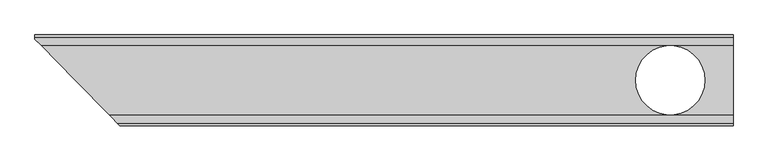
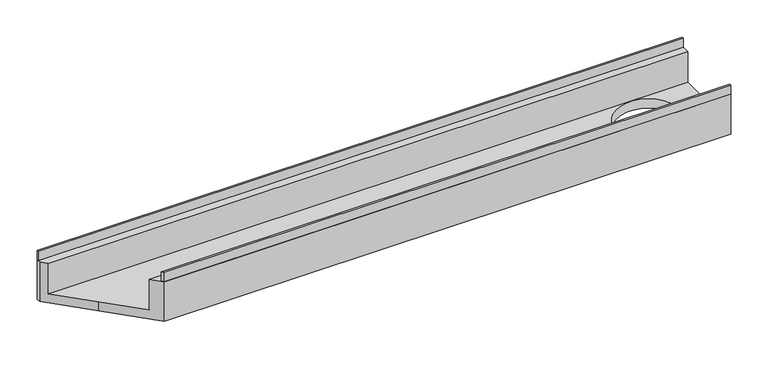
"""IFC4 building model written with IfcOpenShell, lengths in millimetres: sanitary terminal geometry, PF_ST_Slabdrain_H100K & H100KS_channels_USA_ACO : H100KS-8 Constant Depth Channel with SS edge rail."""

from ifc_helpers import new_model, si_unit, frame, origin, place, context, project, spatial, polyline, circle_curve, outline, extrude, source, transform, mapped, element, save
from ifc_brep_helpers import plane_surface, revolved_surface, advanced_brep


def sanitary_terminal_3e059fcc(model_context):
    return source(origin(), model_context, "Body", "SolidModel", [
        advanced_brep(
        [(-605.6176554, 65.0, -15.0), (-605.6176554, 49.9996414, -15.0), (-605.6176554, 49.9996414, -65.0), (-605.6176554, -49.9996414, -65.0), (-605.6176554, -49.9996414, -15.0), (-605.6176554, -65.0, -15.0), (-605.6176554, -65.0, -80.0), (-605.6176554, 65.0, -80.0), (-1605.6176554, 65.0, -15.0), (-1605.6176554, 65.0, -80.0), (-1605.6176554, 58.8943556, -80.0), (-1605.6176554, 58.8943556, -15.0), (-1596.876248, 49.9990349, -15.0), (-1498.6083594, -49.999095, -15.0), (-1483.8670112, -65.0, -15.0), (-1483.8670112, -65.0, -80.0), (-1547.7423333, 0.0, -80.0), (-745.1176554, 0.0, -80.0), (-646.1176554, 0.0, -80.0), (-1596.876248, 49.9990349, -65.0), (-1547.7423333, 0.0, -65.0), (-1498.6083594, -49.999095, -65.0), (-646.1176554, 0.0, -65.0), (-745.1176554, 0.0, -65.0)],
        [
            (0, 1),
            (1, 2),
            (2, 3),
            (3, 4),
            (4, 5),
            (5, 6),
            (6, 7),
            (7, 0),
            (8, 9),
            (9, 10),
            (10, 11),
            (11, 8),
            (0, 8),
            (11, 12),
            (12, 1),
            (4, 13),
            (13, 14),
            (14, 5),
            (14, 15),
            (15, 6),
            (15, 16),
            (16, 10),
            (9, 7),
            (17, 18, circle_curve(frame((-695.6176554, 0.0, -80.0), z_axis=(0.0, 0.0, 1.0), x_axis=(1.0, 0.0, 0.0)), 49.5)),
            (18, 17, circle_curve(frame((-695.6176554, 0.0, -80.0), z_axis=(0.0, 0.0, 1.0), x_axis=(1.0, 0.0, 0.0)), 49.5)),
            (12, 19),
            (19, 2),
            (19, 20),
            (20, 21),
            (21, 3),
            (22, 23, circle_curve(frame((-695.6176554, 0.0, -65.0), z_axis=(0.0, 0.0, -1.0), x_axis=(1.0, 0.0, 0.0)), 49.5)),
            (23, 22, circle_curve(frame((-695.6176554, 0.0, -65.0), z_axis=(0.0, 0.0, -1.0), x_axis=(1.0, 0.0, 0.0)), 49.5)),
            (21, 13),
            (22, 18),
            (17, 23),
            (20, 16),
        ],
        [
            plane_surface(frame((-605.6176554, 0.0, -43.75), z_axis=(1.0, 0.0, 0.0), x_axis=(0.0, -1.0, 0.0))),
            plane_surface(frame((-1605.6176554, 0.0, -43.75), z_axis=(-1.0, 0.0, 0.0), x_axis=(0.0, -1.0, 0.0))),
            plane_surface(frame((-1605.6176554, 57.4995148, -15.0), z_axis=(0.0, 0.0, 1.0), x_axis=(0.0, -1.0, 0.0))),
            plane_surface(frame((-1605.6176554, -57.4995148, -15.0), z_axis=(0.0, 0.0, 1.0), x_axis=(0.0, -1.0, 0.0))),
            plane_surface(frame((-1605.6176554, -65.0, -47.5), z_axis=(0.0, -1.0, 0.0), x_axis=(0.0, 0.0, -1.0))),
            plane_surface(frame((-1605.6176554, 0.0, -80.0), z_axis=(0.0, 0.0, -1.0), x_axis=(0.0, 1.0, 0.0))),
            plane_surface(frame((-1605.6176554, 65.0, -47.5), z_axis=(0.0, 1.0, 0.0), x_axis=(0.0, 0.0, 1.0))),
            plane_surface(frame((-1605.6176554, 49.9990295, -40.0), z_axis=(6.118697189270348e-07, -0.9999999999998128, 0.0), x_axis=(0.0, 0.0, -1.0))),
            plane_surface(frame((-1605.6176554, 0.0, -65.0), z_axis=(0.0, 0.0, 1.0), x_axis=(0.0, -1.0, 0.0))),
            plane_surface(frame((-1605.6176554, -49.9990295, -40.0), z_axis=(6.118697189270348e-07, 0.9999999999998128, 0.0), x_axis=(0.0, 0.0, 1.0))),
            revolved_surface(polyline([(-646.1176554, 0.0, -80.0), (-646.1176554, 0.0, -65.0)]), (-695.6176554, 0.0, 0.0), (0.0, 0.0, -1.0)),
            plane_surface(frame((-1547.7423333, 0.0, 200.0), z_axis=(-0.7132504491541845, -0.700909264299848, 0.0), x_axis=(0.700909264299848, -0.7132504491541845, 0.0))),
            plane_surface(frame((-1547.7423333, 0.0, 200.0), z_axis=(-0.7132504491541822, -0.7009092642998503, 0.0), x_axis=(-0.7009092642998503, 0.7132504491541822, 0.0))),
        ],
        [
            (0, [[1, 2, 3, 4, 5, 6, 7, 8]]),
            (1, [[9, 10, 11, 12]]),
            (2, [[-1, 13, -12, 14, 15]]),
            (3, [[-5, 16, 17, 18]]),
            (4, [[-6, -18, 19, 20]]),
            (5, [[-7, -20, 21, 22, -10, 23], [24, 25]]),
            (6, [[-8, -23, -9, -13]]),
            (7, [[-2, -15, 26, 27]]),
            (8, [[-3, -27, 28, 29, 30], [31, 32]]),
            (9, [[-4, -30, 33, -16]]),
            (10, [[34, -24, 35, -31]]),
            (10, [[-34, -32, -35, -25]]),
            (11, [[36, -21, -19, -17, -33, -29]]),
            (12, [[-36, -28, -26, -14, -11, -22]]),
        ],
    ),
        extrude(outline(polyline([(-605.6176554, 65.0), (-605.6176554, 62.0), (-1605.6176554, 62.0), (-1605.6176554, 65.0), (-605.6176554, 65.0)])), frame((0.0, 0.0, -15.0), z_axis=(0.0, 0.0, 1.0), x_axis=(1.0, 0.0, 0.0)), (0.0, 0.0, 1.0), 15.0),
        extrude(outline(polyline([(-605.6176554, -62.0), (-605.6176554, -65.0), (-1483.8670112, -65.0), (-1486.815103, -62.0), (-605.6176554, -62.0)])), frame((0.0, 0.0, -15.0), z_axis=(0.0, 0.0, 1.0), x_axis=(1.0, 0.0, 0.0)), (0.0, 0.0, 1.0), 15.0),
    ])


if __name__ == "__main__":
    model = new_model("IFC4")
    model_context = context("Model", 3, world=origin())
    ifc_project = project(units=[si_unit("LENGTHUNIT", "METRE", prefix="MILLI")], contexts=[model_context])
    site = spatial("IfcSite", under=ifc_project)
    building = spatial("IfcBuilding", under=site)
    placement = place(None, origin())
    sanitary_terminal_shape = sanitary_terminal_3e059fcc(model_context)
    element("IfcSanitaryTerminal", 1, ObjectType="PF_ST_Slabdrain_H100K & H100KS_channels_USA_ACO : H100KS-8 Constant Depth Channel with SS edge rail", at=placement, inside=building, context=model_context, shape_type="MappedRepresentation", body=[
        mapped(sanitary_terminal_shape, transform((0.0, 0.0, 0.0), x_axis=(1.0, 0.0, 0.0), y_axis=(0.0, 1.0, 0.0), z_axis=(0.0, 0.0, 1.0))),
    ])
    save(model, "model.ifc")
